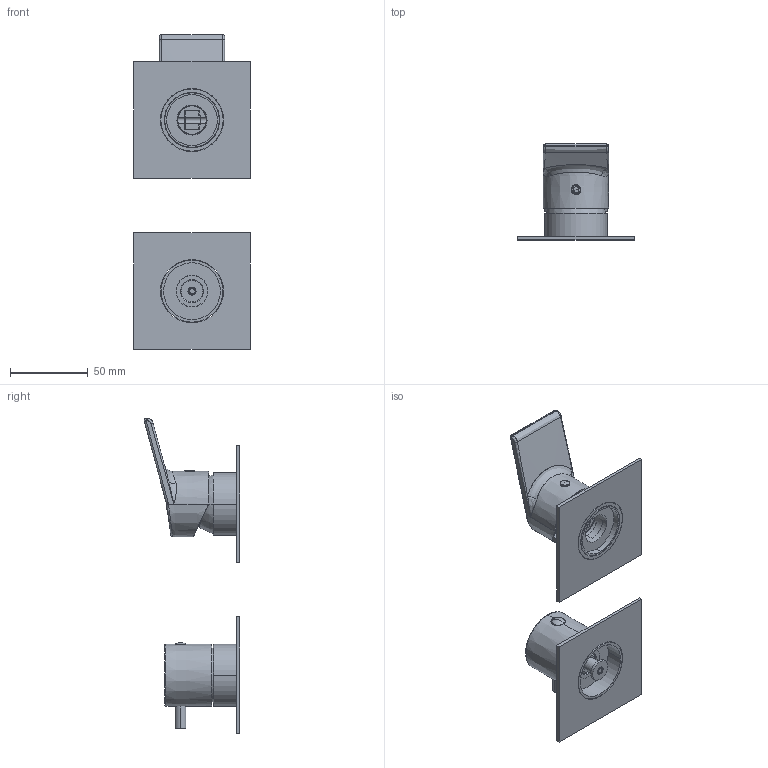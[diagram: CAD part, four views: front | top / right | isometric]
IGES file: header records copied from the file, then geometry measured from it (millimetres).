
Start section:  PTC IGES file: 3d_sw0002.igs
Global section: file name: 3d_sw0002.igs; native system: Creo Parametric by PTC Inc.; preprocessor: 2022014; author: volponeff; organization: Unknown; date: 20251002.103634; units: millimetre
Bounding box: 75 x 61.47 x 202.5 mm (x, y, z)
Surface area: 71935.6 mm2 (no closed solid volume)
Topology: 0 solids, 0 shells, 926 faces, 5054 edges, 5046 vertices
Faces by surface type: revolution 497, bspline 365, extrusion 64
